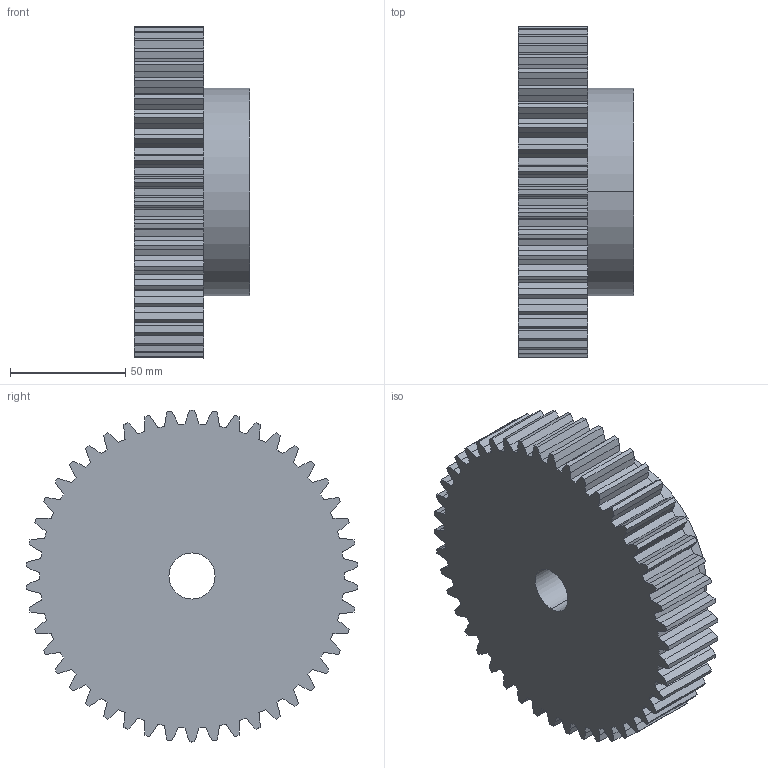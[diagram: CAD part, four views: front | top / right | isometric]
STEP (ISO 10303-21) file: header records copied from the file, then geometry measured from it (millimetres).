
FILE_DESCRIPTION (( 'STEP AP203' ), '1' );
FILE_NAME ('PM 30046.STEP', '2013-09-25T14:08:01', ( '' ), ( '' ), 'SwSTEP 2.0', 'SolidWorks 2010', '' );
FILE_SCHEMA (( 'CONFIG_CONTROL_DESIGN' ));
Length unit declared in the file: millimetre
Products named in the file (1): PM 30046
Bounding box: 50 x 143.79 x 144 mm (x, y, z)
Volume: 556269 mm3; surface area: 62357.6 mm2
Topology: 1 solids, 1 shells, 283 faces, 840 edges, 560 vertices
Faces by surface type: plane 187, cylinder 96
Entity records: 9731 total; most frequent: CARTESIAN_POINT 2482, ORIENTED_EDGE 1680, DIRECTION 1252, EDGE_CURVE 840, VERTEX_POINT 560, VECTOR 464, LINE 464, AXIS2_PLACEMENT_3D 394
